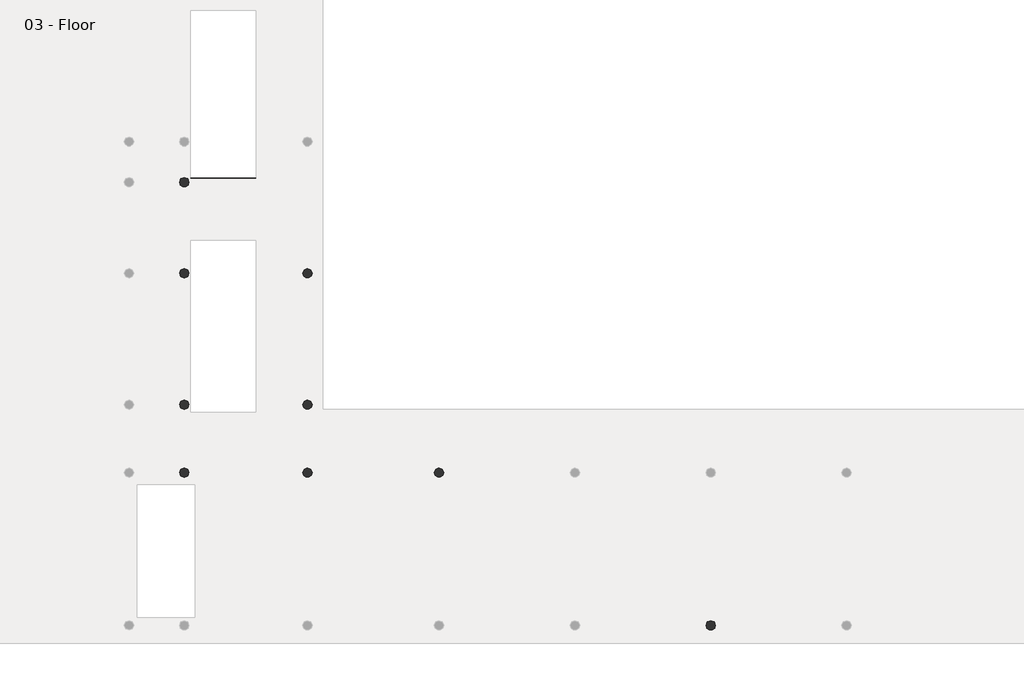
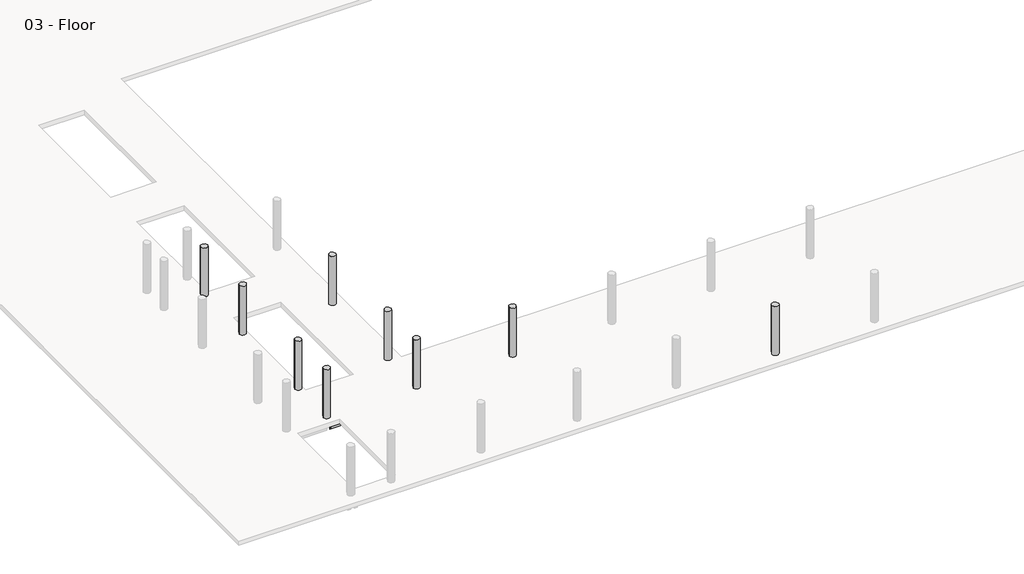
# One storey, part 3 of 8: 16 beams, 9 columns.
"""IFC4 building model written with IfcOpenShell, lengths in millimetres."""

from ifc_helpers import new_model, si_unit, point, frame, frame_2d, origin, place, context, project, spatial, polyline, circle_curve, trimmed, segment, composite_curve, outline, extrude, element, save
from ifc_brep_helpers import plane_surface, revolved_surface, advanced_brep

model = new_model("IFC4")

# Units and contexts
model_context = context("Model", 3, world=origin())
ifc_project = project(units=[si_unit("LENGTHUNIT", "METRE", prefix="MILLI")], contexts=[model_context])

# Site, building, storey
site = spatial("IfcSite", under=ifc_project)
building = spatial("IfcBuilding", under=site)
storey = spatial("IfcBuildingStorey", under=building, Name="03 - Floor", Elevation=7600.0)

# Beams
placement = place(None, origin())
element("IfcBeam", 1, ObjectType="M_Concrete-Rectangular Beam : 400 x 800mm", at=placement, inside=storey, context=model_context, shape_type="AdvancedBrep", body=[
    advanced_brep(
    [(554.8005584, -1310.2837394, 6800.0), (554.8005584, -1310.2837394, 7300.0), (554.8005584, -1213.3613801, 7300.0), (554.8005584, 329.7386199, 7300.0), (554.8005584, 329.7386199, 6800.0), (554.8005584, -1213.3613801, 6800.0), (954.8005584, 426.6609793, 6800.0), (954.8005584, -1213.3613801, 6800.0), (954.8005584, -1310.2837394, 6800.0), (651.7229178, 329.7386199, 6800.0), (954.8005584, 426.6609793, 7300.0), (954.8005584, -1213.3613801, 7300.0), (954.8005584, -1310.2837394, 7300.0), (651.7229178, 329.7386199, 7300.0)],
    [
        (0, 1),
        (1, 2),
        (2, 3),
        (3, 4),
        (4, 5),
        (5, 0),
        (6, 7),
        (7, 8),
        (8, 0, circle_curve(frame((754.8005584, -1413.3613801, 6800.0), z_axis=(0.0, 0.0, 1.0), x_axis=(-1.0, 0.0, 0.0)), 225.0)),
        (4, 9),
        (9, 6, circle_curve(frame((754.8005584, 529.7386199, 6800.0), z_axis=(0.0, 0.0, 1.0), x_axis=(-1.0, 0.0, 0.0)), 225.0)),
        (6, 10),
        (10, 11),
        (11, 12),
        (12, 8),
        (9, 13),
        (13, 10, circle_curve(frame((754.8005584, 529.7386199, 7300.0), z_axis=(0.0, 0.0, 1.0), x_axis=(-1.0, 0.0, 0.0)), 225.0)),
        (12, 1, circle_curve(frame((754.8005584, -1413.3613801, 7300.0), z_axis=(0.0, 0.0, 1.0), x_axis=(-1.0, 0.0, 0.0)), 225.0)),
        (13, 3),
    ],
    [
        plane_surface(frame((554.8005584, -1175.6613801, 7200.0), z_axis=(-1.0, 0.0, 0.0), x_axis=(0.0, 0.0, -1.0))),
        plane_surface(frame((754.8005584, -1175.6613801, 6800.0), z_axis=(0.0, 0.0, -1.0), x_axis=(1.0, 0.0, 0.0))),
        plane_surface(frame((954.8005584, -1175.6613801, 7200.0), z_axis=(1.0, 0.0, 0.0), x_axis=(0.0, 0.0, 1.0))),
        revolved_surface(polyline([(529.8005584, 529.7386199, 7300.0), (529.8005584, 529.7386199, 6800.0)]), (754.8005584, 529.7386199, 3800.0), (0.0, 0.0, 1.0)),
        revolved_surface(polyline([(529.8005584, -1413.3613801, 7300.0), (529.8005584, -1413.3613801, 6800.0)]), (754.8005584, -1413.3613801, 3800.0), (0.0, 0.0, 1.0)),
        plane_surface(frame((24268.8999097, 30514.0407562, 7300.0), z_axis=(0.0, 0.0, 1.0), x_axis=(0.0, -1.0, 0.0))),
        plane_surface(frame((-1649.0994416, 329.7386199, 7200.0), z_axis=(0.0, 1.0, 0.0), x_axis=(0.0, 0.0, 1.0))),
    ],
    [
        (0, [[1, 2, 3, 4, 5, 6]]),
        (1, [[7, 8, 9, -6, -5, 10, 11]]),
        (2, [[-8, -7, 12, 13, 14, 15]]),
        (3, [[-12, -11, 16, 17]]),
        (4, [[-9, -15, 18, -1]]),
        (5, [[-14, -13, -17, 19, -3, -2, -18]]),
        (6, [[-4, -19, -16, -10]]),
    ],
),
])
element("IfcBeam", 2, ObjectType="M_Concrete-Rectangular Beam : 400 x 800mm", at=placement, inside=storey, context=model_context, shape_type="AdvancedBrep", body=[
    advanced_brep(
    [(554.8005584, -1516.4390207, 6800.0), (554.8005584, -1613.3613801, 6800.0), (554.8005584, -5569.4613801, 6800.0), (554.8005584, -5666.3837394, 6800.0), (554.8005584, -5666.3837394, 7300.0), (554.8005584, -5569.4613801, 7300.0), (554.8005584, -1613.3613801, 7300.0), (554.8005584, -1516.4390207, 7300.0), (954.8005584, -5666.3837394, 6800.0), (857.878199, -1613.3613801, 6800.0), (954.8005584, -1613.3613801, 6800.0), (954.8005584, -1613.3613801, 7300.0), (954.8005584, -5666.3837394, 7300.0), (857.878199, -1613.3613801, 7300.0)],
    [
        (0, 1),
        (1, 2),
        (2, 3),
        (3, 4),
        (4, 5),
        (5, 6),
        (6, 7),
        (7, 0),
        (8, 3, circle_curve(frame((754.8005584, -5769.4613801, 6800.0), z_axis=(0.0, 0.0, 1.0), x_axis=(-1.0, 0.0, 0.0)), 225.0)),
        (0, 9, circle_curve(frame((754.8005584, -1413.3613801, 6800.0), z_axis=(0.0, 0.0, 1.0), x_axis=(-1.0, 0.0, 0.0)), 225.0)),
        (9, 10),
        (10, 8),
        (10, 11),
        (11, 12),
        (12, 8),
        (12, 4, circle_curve(frame((754.8005584, -5769.4613801, 7300.0), z_axis=(0.0, 0.0, 1.0), x_axis=(-1.0, 0.0, 0.0)), 225.0)),
        (7, 13, circle_curve(frame((754.8005584, -1413.3613801, 7300.0), z_axis=(0.0, 0.0, 1.0), x_axis=(-1.0, 0.0, 0.0)), 225.0)),
        (13, 9),
        (13, 11),
    ],
    [
        plane_surface(frame((554.8005584, -5531.7613801, 7200.0), z_axis=(-1.0, 0.0, 0.0), x_axis=(0.0, 0.0, -1.0))),
        plane_surface(frame((754.8005584, -5531.7613801, 6800.0), z_axis=(0.0, 0.0, -1.0), x_axis=(1.0, 0.0, 0.0))),
        plane_surface(frame((954.8005584, -5531.7613801, 7200.0), z_axis=(1.0, 0.0, 0.0), x_axis=(0.0, 0.0, 1.0))),
        revolved_surface(polyline([(529.8005584, -5769.4613801, 7300.0), (529.8005584, -5769.4613801, 6800.0)]), (754.8005584, -5769.4613801, 3800.0), (0.0, 0.0, 1.0)),
        revolved_surface(polyline([(529.8005584, -1413.3613801, 7300.0), (529.8005584, -1413.3613801, 6800.0)]), (754.8005584, -1413.3613801, 3800.0), (0.0, 0.0, 1.0)),
        plane_surface(frame((992.5005584, -1613.3613801, 7200.0), z_axis=(0.0, 1.0, 0.0), x_axis=(0.0, 0.0, 1.0))),
        plane_surface(frame((24268.8999097, 30514.0407562, 7300.0), z_axis=(0.0, 0.0, 1.0), x_axis=(0.0, -1.0, 0.0))),
    ],
    [
        (0, [[1, 2, 3, 4, 5, 6, 7, 8]]),
        (1, [[9, -3, -2, -1, 10, 11, 12]]),
        (2, [[-12, 13, 14, 15]]),
        (3, [[-9, -15, 16, -4]]),
        (4, [[-10, -8, 17, 18]]),
        (5, [[-11, -18, 19, -13]]),
        (6, [[-7, -6, -5, -16, -14, -19, -17]]),
    ],
),
])
element("IfcBeam", 3, ObjectType="M_Concrete-Rectangular Beam : 400 x 800mm", at=placement, inside=storey, context=model_context, shape_type="AdvancedBrep", body=[
    advanced_brep(
    [(554.8005584, -11965.5837394, 6800.0), (554.8005584, -11965.5837394, 7300.0), (554.8005584, -11868.6613801, 7300.0), (554.8005584, -5969.4613801, 7300.0), (554.8005584, -5969.4613801, 6800.0), (554.8005584, -11868.6613801, 6800.0), (954.8005584, -5872.5390207, 6800.0), (954.8005584, -11965.5837394, 6800.0), (651.7229178, -5969.4613801, 6800.0), (954.8005584, -5872.5390207, 7300.0), (954.8005584, -11965.5837394, 7300.0), (651.7229178, -5969.4613801, 7300.0)],
    [
        (0, 1),
        (1, 2),
        (2, 3),
        (3, 4),
        (4, 5),
        (5, 0),
        (6, 7),
        (7, 0, circle_curve(frame((754.8005584, -12068.6613801, 6800.0), z_axis=(0.0, 0.0, 1.0), x_axis=(-1.0, 0.0, 0.0)), 225.0)),
        (4, 8),
        (8, 6, circle_curve(frame((754.8005584, -5769.4613801, 6800.0), z_axis=(0.0, 0.0, 1.0), x_axis=(-1.0, 0.0, 0.0)), 225.0)),
        (6, 9),
        (9, 10),
        (10, 7),
        (8, 11),
        (11, 9, circle_curve(frame((754.8005584, -5769.4613801, 7300.0), z_axis=(0.0, 0.0, 1.0), x_axis=(-1.0, 0.0, 0.0)), 225.0)),
        (10, 1, circle_curve(frame((754.8005584, -12068.6613801, 7300.0), z_axis=(0.0, 0.0, 1.0), x_axis=(-1.0, 0.0, 0.0)), 225.0)),
        (11, 3),
    ],
    [
        plane_surface(frame((554.8005584, -11830.9613801, 7200.0), z_axis=(-1.0, 0.0, 0.0), x_axis=(0.0, 0.0, -1.0))),
        plane_surface(frame((754.8005584, -11830.9613801, 6800.0), z_axis=(0.0, 0.0, -1.0), x_axis=(1.0, 0.0, 0.0))),
        plane_surface(frame((954.8005584, -11830.9613801, 7200.0), z_axis=(1.0, 0.0, 0.0), x_axis=(0.0, 0.0, 1.0))),
        revolved_surface(polyline([(529.8005584, -5769.4613801, 7300.0), (529.8005584, -5769.4613801, 6800.0)]), (754.8005584, -5769.4613801, 3800.0), (0.0, 0.0, 1.0)),
        revolved_surface(polyline([(529.8005584, -12068.6613801, 7300.0), (529.8005584, -12068.6613801, 6800.0)]), (754.8005584, -12068.6613801, 3800.0), (0.0, 0.0, 1.0)),
        plane_surface(frame((24268.8999097, 30514.0407562, 7300.0), z_axis=(0.0, 0.0, 1.0), x_axis=(0.0, -1.0, 0.0))),
        plane_surface(frame((-1649.0994416, -5969.4613801, 7200.0), z_axis=(0.0, 1.0, 0.0), x_axis=(0.0, 0.0, 1.0))),
    ],
    [
        (0, [[1, 2, 3, 4, 5, 6]]),
        (1, [[7, 8, -6, -5, 9, 10]]),
        (2, [[-7, 11, 12, 13]]),
        (3, [[-11, -10, 14, 15]]),
        (4, [[-8, -13, 16, -1]]),
        (5, [[-12, -15, 17, -3, -2, -16]]),
        (6, [[-4, -17, -14, -9]]),
    ],
),
])
element("IfcBeam", 4, ObjectType="M_Concrete-Rectangular Beam : 400 x 800mm", at=placement, inside=storey, context=model_context, shape_type="AdvancedBrep", body=[
    advanced_brep(
    [(554.8005584, -15216.7837394, 6800.0), (554.8005584, -15216.7837394, 7300.0), (554.8005584, -15119.8613801, 7300.0), (554.8005584, -12268.6613801, 7300.0), (554.8005584, -12268.6613801, 6800.0), (554.8005584, -15119.8613801, 6800.0), (954.8005584, -12171.7390207, 6800.0), (954.8005584, -15119.8613801, 6800.0), (954.8005584, -15216.7837394, 6800.0), (651.7229178, -12268.6613801, 6800.0), (954.8005584, -12171.7390207, 7300.0), (954.8005584, -15119.8613801, 7300.0), (954.8005584, -15216.7837394, 7300.0), (651.7229178, -12268.6613801, 7300.0)],
    [
        (0, 1),
        (1, 2),
        (2, 3),
        (3, 4),
        (4, 5),
        (5, 0),
        (6, 7),
        (7, 8),
        (8, 0, circle_curve(frame((754.8005584, -15319.8613801, 6800.0), z_axis=(0.0, 0.0, 1.0), x_axis=(-1.0, 0.0, 0.0)), 225.0)),
        (4, 9),
        (9, 6, circle_curve(frame((754.8005584, -12068.6613801, 6800.0), z_axis=(0.0, 0.0, 1.0), x_axis=(-1.0, 0.0, 0.0)), 225.0)),
        (6, 10),
        (10, 11),
        (11, 12),
        (12, 8),
        (9, 13),
        (13, 10, circle_curve(frame((754.8005584, -12068.6613801, 7300.0), z_axis=(0.0, 0.0, 1.0), x_axis=(-1.0, 0.0, 0.0)), 225.0)),
        (12, 1, circle_curve(frame((754.8005584, -15319.8613801, 7300.0), z_axis=(0.0, 0.0, 1.0), x_axis=(-1.0, 0.0, 0.0)), 225.0)),
        (13, 3),
    ],
    [
        plane_surface(frame((554.8005584, -15082.1613801, 7200.0), z_axis=(-1.0, 0.0, 0.0), x_axis=(0.0, 0.0, -1.0))),
        plane_surface(frame((754.8005584, -15082.1613801, 6800.0), z_axis=(0.0, 0.0, -1.0), x_axis=(1.0, 0.0, 0.0))),
        plane_surface(frame((954.8005584, -15082.1613801, 7200.0), z_axis=(1.0, 0.0, 0.0), x_axis=(0.0, 0.0, 1.0))),
        revolved_surface(polyline([(529.8005584, -12068.6613801, 7300.0), (529.8005584, -12068.6613801, 6800.0)]), (754.8005584, -12068.6613801, 3800.0), (0.0, 0.0, 1.0)),
        revolved_surface(polyline([(529.8005584, -15319.8613801, 7300.0), (529.8005584, -15319.8613801, 6800.0)]), (754.8005584, -15319.8613801, 3800.0), (0.0, 0.0, 1.0)),
        plane_surface(frame((24268.8999097, 30514.0407562, 7300.0), z_axis=(0.0, 0.0, 1.0), x_axis=(0.0, -1.0, 0.0))),
        plane_surface(frame((-1649.0994416, -12268.6613801, 7200.0), z_axis=(0.0, 1.0, 0.0), x_axis=(0.0, 0.0, 1.0))),
    ],
    [
        (0, [[1, 2, 3, 4, 5, 6]]),
        (1, [[7, 8, 9, -6, -5, 10, 11]]),
        (2, [[-8, -7, 12, 13, 14, 15]]),
        (3, [[-12, -11, 16, 17]]),
        (4, [[-9, -15, 18, -1]]),
        (5, [[-14, -13, -17, 19, -3, -2, -18]]),
        (6, [[-4, -19, -16, -10]]),
    ],
),
])
element("IfcBeam", 5, ObjectType="M_Concrete-Rectangular Beam : 400 x 800mm", at=placement, inside=storey, context=model_context, shape_type="AdvancedBrep", body=[
    advanced_brep(
    [(6447.6005584, 426.6609793, 6800.0), (6447.6005584, -1213.3613801, 6800.0), (6447.6005584, -1613.3613801, 6800.0), (6447.6005584, -1613.3613801, 7300.0), (6447.6005584, -1213.3613801, 7300.0), (6447.6005584, 426.6609793, 7300.0), (6847.6005584, -1613.3613801, 6800.0), (6847.6005584, 426.6609793, 6800.0), (6847.6005584, 426.6609793, 7300.0), (6847.6005584, -1613.3613801, 7300.0)],
    [
        (0, 1),
        (1, 2),
        (2, 3),
        (3, 4),
        (4, 5),
        (5, 0),
        (6, 2),
        (0, 7, circle_curve(frame((6647.6005584, 529.7386199, 6800.0), z_axis=(0.0, 0.0, 1.0), x_axis=(-1.0, 0.0, 0.0)), 225.0)),
        (7, 6),
        (7, 8),
        (8, 9),
        (9, 6),
        (9, 3),
        (5, 8, circle_curve(frame((6647.6005584, 529.7386199, 7300.0), z_axis=(0.0, 0.0, 1.0), x_axis=(-1.0, 0.0, 0.0)), 225.0)),
    ],
    [
        plane_surface(frame((6447.6005584, -1200.6613801, 7600.0), z_axis=(-1.0, 0.0, 0.0), x_axis=(0.0, 1.0, 0.0))),
        plane_surface(frame((6447.6005584, -1200.6613801, 6800.0), z_axis=(0.0, 0.0, -1.0), x_axis=(0.0, 1.0, 0.0))),
        plane_surface(frame((6847.6005584, -1200.6613801, 6800.0), z_axis=(1.0, 0.0, 0.0), x_axis=(0.0, 1.0, 0.0))),
        plane_surface(frame((6871.5296419, -1613.3613801, 7600.0), z_axis=(0.0, -1.0, 0.0), x_axis=(-1.0, 0.0, 0.0))),
        revolved_surface(polyline([(6422.6005584, 529.7386199, 7300.0), (6422.6005584, 529.7386199, 6800.0)]), (6647.6005584, 529.7386199, 3800.0), (0.0, 0.0, 1.0)),
        plane_surface(frame((24268.8999097, 30514.0407562, 7300.0), z_axis=(0.0, 0.0, 1.0), x_axis=(0.0, -1.0, 0.0))),
    ],
    [
        (0, [[1, 2, 3, 4, 5, 6]]),
        (1, [[7, -2, -1, 8, 9]]),
        (2, [[-9, 10, 11, 12]]),
        (3, [[-7, -12, 13, -3]]),
        (4, [[-8, -6, 14, -10]]),
        (5, [[-5, -4, -13, -11, -14]]),
    ],
),
])
element("IfcBeam", 6, ObjectType="M_Concrete-Rectangular Beam : 400 x 800mm", at=placement, inside=storey, context=model_context, shape_type="SweptSolid", body=[
    extrude(outline(composite_curve([segment(trimmed(circle_curve(frame_2d((6647.6005584, -5769.4613801)), 225.0), [point((6847.6005584, -5666.3837394))], [point((6447.6005584, -5666.3837394))], True, "CARTESIAN"), True, "CONTINUOUS"), segment(polyline([(6447.6005584, -5666.3837394), (6447.6005584, -1613.3613801), (6847.6005584, -1613.3613801), (6847.6005584, -5666.3837394)]), True, "CONTINUOUS")], self_intersect=False)), frame((0.0, 0.0, 6800.0), z_axis=(0.0, 0.0, 1.0), x_axis=(1.0, 0.0, 0.0)), (0.0, 0.0, 1.0), 500.0),
])
element("IfcBeam", 7, ObjectType="M_Concrete-Rectangular Beam : 400 x 800mm", at=placement, inside=storey, context=model_context, shape_type="SweptSolid", body=[
    extrude(outline(composite_curve([segment(trimmed(circle_curve(frame_2d((6647.6005584, -5769.4613801)), 225.0), [point((6447.6005584, -5872.5390207))], [point((6847.6005584, -5872.5390207))], True, "CARTESIAN"), True, "CONTINUOUS"), segment(polyline([(6847.6005584, -5872.5390207), (6847.6005584, -11965.5837394)]), True, "CONTINUOUS"), segment(trimmed(circle_curve(frame_2d((6647.6005584, -12068.6613801)), 225.0), [point((6847.6005584, -11965.5837394))], [point((6447.6005584, -11965.5837394))], True, "CARTESIAN"), True, "CONTINUOUS"), segment(polyline([(6447.6005584, -11965.5837394), (6447.6005584, -5872.5390207)]), True, "CONTINUOUS")], self_intersect=False)), frame((0.0, 0.0, 6800.0), z_axis=(0.0, 0.0, 1.0), x_axis=(1.0, 0.0, 0.0)), (0.0, 0.0, 1.0), 500.0),
])
element("IfcBeam", 8, ObjectType="M_Concrete-Rectangular Beam : 400 x 800mm", at=placement, inside=storey, context=model_context, shape_type="AdvancedBrep", body=[
    advanced_brep(
    [(6447.6005584, -12171.7390207, 6800.0), (6447.6005584, -15119.8613801, 6800.0), (6447.6005584, -15216.7837394, 6800.0), (6447.6005584, -15216.7837394, 7300.0), (6447.6005584, -15119.8613801, 7300.0), (6447.6005584, -12171.7390207, 7300.0), (6847.6005584, -12171.7390207, 6800.0), (6847.6005584, -15119.8613801, 6800.0), (6847.6005584, -15216.7837394, 6800.0), (6847.6005584, -12171.7390207, 7300.0), (6847.6005584, -15119.8613801, 7300.0), (6847.6005584, -15216.7837394, 7300.0)],
    [
        (0, 1),
        (1, 2),
        (2, 3),
        (3, 4),
        (4, 5),
        (5, 0),
        (0, 6, circle_curve(frame((6647.6005584, -12068.6613801, 6800.0), z_axis=(0.0, 0.0, 1.0), x_axis=(-1.0, 0.0, 0.0)), 225.0)),
        (6, 7),
        (7, 8),
        (8, 2, circle_curve(frame((6647.6005584, -15319.8613801, 6800.0), z_axis=(0.0, 0.0, 1.0), x_axis=(-1.0, 0.0, 0.0)), 225.0)),
        (6, 9),
        (9, 10),
        (10, 11),
        (11, 8),
        (5, 9, circle_curve(frame((6647.6005584, -12068.6613801, 7300.0), z_axis=(0.0, 0.0, 1.0), x_axis=(-1.0, 0.0, 0.0)), 225.0)),
        (11, 3, circle_curve(frame((6647.6005584, -15319.8613801, 7300.0), z_axis=(0.0, 0.0, 1.0), x_axis=(-1.0, 0.0, 0.0)), 225.0)),
    ],
    [
        plane_surface(frame((6447.6005584, -15082.1613801, 7200.0), z_axis=(-1.0, 0.0, 0.0), x_axis=(0.0, 0.0, -1.0))),
        plane_surface(frame((6647.6005584, -15082.1613801, 6800.0), z_axis=(0.0, 0.0, -1.0), x_axis=(1.0, 0.0, 0.0))),
        plane_surface(frame((6847.6005584, -15082.1613801, 7200.0), z_axis=(1.0, 0.0, 0.0), x_axis=(0.0, 0.0, 1.0))),
        revolved_surface(polyline([(6422.6005584, -12068.6613801, 7300.0), (6422.6005584, -12068.6613801, 6800.0)]), (6647.6005584, -12068.6613801, 3800.0), (0.0, 0.0, 1.0)),
        revolved_surface(polyline([(6422.6005584, -15319.8613801, 7300.0), (6422.6005584, -15319.8613801, 6800.0)]), (6647.6005584, -15319.8613801, 3800.0), (0.0, 0.0, 1.0)),
        plane_surface(frame((24268.8999097, 30514.0407562, 7300.0), z_axis=(0.0, 0.0, 1.0), x_axis=(0.0, -1.0, 0.0))),
    ],
    [
        (0, [[1, 2, 3, 4, 5, 6]]),
        (1, [[7, 8, 9, 10, -2, -1]]),
        (2, [[-9, -8, 11, 12, 13, 14]]),
        (3, [[-7, -6, 15, -11]]),
        (4, [[-10, -14, 16, -3]]),
        (5, [[-5, -4, -16, -13, -12, -15]]),
    ],
),
])
element("IfcBeam", 9, ObjectType="M_Concrete-Rectangular Beam : 400 x 800mm", at=placement, inside=storey, context=model_context, shape_type="AdvancedBrep", body=[
    advanced_brep(
    [(19249.2005584, -15422.9390207, 6800.0), (19249.2005584, -15519.8613801, 6800.0), (19249.2005584, -22435.0613801, 6800.0), (19249.2005584, -22531.9837394, 6800.0), (19249.2005584, -22531.9837394, 7300.0), (19249.2005584, -22435.0613801, 7300.0), (19249.2005584, -15519.8613801, 7300.0), (19249.2005584, -15422.9390207, 7300.0), (19649.2005584, -15422.9390207, 6800.0), (19649.2005584, -15519.8613801, 6800.0), (19649.2005584, -22435.0613801, 6800.0), (19649.2005584, -22531.9837394, 6800.0), (19649.2005584, -15422.9390207, 7300.0), (19649.2005584, -15519.8613801, 7300.0), (19649.2005584, -22435.0613801, 7300.0), (19649.2005584, -22531.9837394, 7300.0)],
    [
        (0, 1),
        (1, 2),
        (2, 3),
        (3, 4),
        (4, 5),
        (5, 6),
        (6, 7),
        (7, 0),
        (0, 8, circle_curve(frame((19449.2005584, -15319.8613801, 6800.0), z_axis=(0.0, 0.0, 1.0), x_axis=(-1.0, 0.0, 0.0)), 225.0)),
        (8, 9),
        (9, 10),
        (10, 11),
        (11, 3, circle_curve(frame((19449.2005584, -22635.0613801, 6800.0), z_axis=(0.0, 0.0, 1.0), x_axis=(-1.0, 0.0, 0.0)), 225.0)),
        (8, 12),
        (12, 13),
        (13, 14),
        (14, 15),
        (15, 11),
        (7, 12, circle_curve(frame((19449.2005584, -15319.8613801, 7300.0), z_axis=(0.0, 0.0, 1.0), x_axis=(-1.0, 0.0, 0.0)), 225.0)),
        (15, 4, circle_curve(frame((19449.2005584, -22635.0613801, 7300.0), z_axis=(0.0, 0.0, 1.0), x_axis=(-1.0, 0.0, 0.0)), 225.0)),
    ],
    [
        plane_surface(frame((19249.2005584, -22397.3613801, 7600.0), z_axis=(-1.0, 0.0, 0.0), x_axis=(0.0, 1.0, 0.0))),
        plane_surface(frame((19249.2005584, -22397.3613801, 6800.0), z_axis=(0.0, 0.0, -1.0), x_axis=(0.0, 1.0, 0.0))),
        plane_surface(frame((19649.2005584, -22397.3613801, 6800.0), z_axis=(1.0, 0.0, 0.0), x_axis=(0.0, 1.0, 0.0))),
        revolved_surface(polyline([(19224.2005584, -15319.8613801, 7300.0), (19224.2005584, -15319.8613801, 6800.0)]), (19449.2005584, -15319.8613801, 3800.0), (0.0, 0.0, 1.0)),
        revolved_surface(polyline([(19224.2005584, -22635.0613801, 7300.0), (19224.2005584, -22635.0613801, 6800.0)]), (19449.2005584, -22635.0613801, 3800.0), (0.0, 0.0, 1.0)),
        plane_surface(frame((24268.8999097, 30514.0407562, 7300.0), z_axis=(0.0, 0.0, 1.0), x_axis=(0.0, -1.0, 0.0))),
    ],
    [
        (0, [[1, 2, 3, 4, 5, 6, 7, 8]]),
        (1, [[9, 10, 11, 12, 13, -3, -2, -1]]),
        (2, [[-12, -11, -10, 14, 15, 16, 17, 18]]),
        (3, [[-9, -8, 19, -14]]),
        (4, [[-13, -18, 20, -4]]),
        (5, [[-7, -6, -5, -20, -17, -16, -15, -19]]),
    ],
),
])
element("IfcBeam", 10, ObjectType="M_Concrete-Rectangular Beam : 400 x 800mm", at=placement, inside=storey, context=model_context, shape_type="AdvancedBrep", body=[
    advanced_brep(
    [(25751.6005584, -15422.9390207, 6800.0), (25751.6005584, -15519.8613801, 6800.0), (25751.6005584, -22435.0613801, 6800.0), (25751.6005584, -22531.9837394, 6800.0), (25751.6005584, -22531.9837394, 7300.0), (25751.6005584, -22435.0613801, 7300.0), (25751.6005584, -15519.8613801, 7300.0), (25751.6005584, -15422.9390207, 7300.0), (26151.6005584, -15422.9390207, 6800.0), (26151.6005584, -15519.8613801, 6800.0), (26151.6005584, -22435.0613801, 6800.0), (26151.6005584, -22531.9837394, 6800.0), (26151.6005584, -15422.9390207, 7300.0), (26151.6005584, -15519.8613801, 7300.0), (26151.6005584, -22435.0613801, 7300.0), (26151.6005584, -22531.9837394, 7300.0)],
    [
        (0, 1),
        (1, 2),
        (2, 3),
        (3, 4),
        (4, 5),
        (5, 6),
        (6, 7),
        (7, 0),
        (0, 8, circle_curve(frame((25951.6005584, -15319.8613801, 6800.0), z_axis=(0.0, 0.0, 1.0), x_axis=(-1.0, 0.0, 0.0)), 225.0)),
        (8, 9),
        (9, 10),
        (10, 11),
        (11, 3, circle_curve(frame((25951.6005584, -22635.0613801, 6800.0), z_axis=(0.0, 0.0, 1.0), x_axis=(-1.0, 0.0, 0.0)), 225.0)),
        (8, 12),
        (12, 13),
        (13, 14),
        (14, 15),
        (15, 11),
        (7, 12, circle_curve(frame((25951.6005584, -15319.8613801, 7300.0), z_axis=(0.0, 0.0, 1.0), x_axis=(-1.0, 0.0, 0.0)), 225.0)),
        (15, 4, circle_curve(frame((25951.6005584, -22635.0613801, 7300.0), z_axis=(0.0, 0.0, 1.0), x_axis=(-1.0, 0.0, 0.0)), 225.0)),
    ],
    [
        plane_surface(frame((25751.6005584, -22397.3613801, 7600.0), z_axis=(-1.0, 0.0, 0.0), x_axis=(0.0, 1.0, 0.0))),
        plane_surface(frame((25751.6005584, -22397.3613801, 6800.0), z_axis=(0.0, 0.0, -1.0), x_axis=(0.0, 1.0, 0.0))),
        plane_surface(frame((26151.6005584, -22397.3613801, 6800.0), z_axis=(1.0, 0.0, 0.0), x_axis=(0.0, 1.0, 0.0))),
        revolved_surface(polyline([(25726.6005584, -15319.8613801, 7300.0), (25726.6005584, -15319.8613801, 6800.0)]), (25951.6005584, -15319.8613801, 3800.0), (0.0, 0.0, 1.0)),
        revolved_surface(polyline([(25726.6005584, -22635.0613801, 7300.0), (25726.6005584, -22635.0613801, 6800.0)]), (25951.6005584, -22635.0613801, 3800.0), (0.0, 0.0, 1.0)),
        plane_surface(frame((24268.8999097, 30514.0407562, 7300.0), z_axis=(0.0, 0.0, 1.0), x_axis=(0.0, -1.0, 0.0))),
    ],
    [
        (0, [[1, 2, 3, 4, 5, 6, 7, 8]]),
        (1, [[9, 10, 11, 12, 13, -3, -2, -1]]),
        (2, [[-12, -11, -10, 14, 15, 16, 17, 18]]),
        (3, [[-9, -8, 19, -14]]),
        (4, [[-13, -18, 20, -4]]),
        (5, [[-7, -6, -5, -20, -17, -16, -15, -19]]),
    ],
),
])
element("IfcBeam", 11, ObjectType="M_Concrete-Rectangular Beam : 400 x 800mm", at=placement, inside=storey, context=model_context, shape_type="AdvancedBrep", body=[
    advanced_brep(
    [(12843.7229178, -15119.8613801, 6800.0), (12746.8005584, -15119.8613801, 6800.0), (6847.6005584, -15119.8613801, 6800.0), (6847.6005584, -15119.8613801, 7300.0), (12746.8005584, -15119.8613801, 7300.0), (12843.7229178, -15119.8613801, 7300.0), (6847.6005584, -15216.7837394, 6800.0), (12721.8005584, -15319.8613801, 6800.0), (12746.8005584, -15422.9390207, 6800.0), (12746.8005584, -15519.8613801, 6800.0), (6847.6005584, -15519.8613801, 6800.0), (6750.678199, -15519.8613801, 6800.0), (6872.6005584, -15319.8613801, 6800.0), (12746.8005584, -15519.8613801, 7300.0), (6847.6005584, -15519.8613801, 7300.0), (6750.678199, -15519.8613801, 7300.0), (6847.6005584, -15216.7837394, 7300.0), (6872.6005584, -15319.8613801, 7300.0), (12746.8005584, -15422.9390207, 7300.0), (12721.8005584, -15319.8613801, 7300.0)],
    [
        (0, 1),
        (1, 2),
        (2, 3),
        (3, 4),
        (4, 5),
        (5, 0),
        (6, 2),
        (0, 7, circle_curve(frame((12946.8005584, -15319.8613801, 6800.0), z_axis=(0.0, 0.0, 1.0), x_axis=(-1.0, 0.0, 0.0)), 225.0)),
        (7, 8, circle_curve(frame((12946.8005584, -15319.8613801, 6800.0), z_axis=(0.0, 0.0, 1.0), x_axis=(-1.0, 0.0, 0.0)), 225.0)),
        (8, 9),
        (9, 10),
        (10, 11),
        (11, 12, circle_curve(frame((6647.6005584, -15319.8613801, 6800.0), z_axis=(0.0, 0.0, 1.0), x_axis=(-1.0, 0.0, 0.0)), 225.0)),
        (12, 6, circle_curve(frame((6647.6005584, -15319.8613801, 6800.0), z_axis=(0.0, 0.0, 1.0), x_axis=(-1.0, 0.0, 0.0)), 225.0)),
        (9, 13),
        (13, 14),
        (14, 15),
        (15, 11),
        (6, 16),
        (16, 3),
        (15, 17, circle_curve(frame((6647.6005584, -15319.8613801, 7300.0), z_axis=(0.0, 0.0, 1.0), x_axis=(-1.0, 0.0, 0.0)), 225.0)),
        (17, 12),
        (17, 16, circle_curve(frame((6647.6005584, -15319.8613801, 7300.0), z_axis=(0.0, 0.0, 1.0), x_axis=(-1.0, 0.0, 0.0)), 225.0)),
        (8, 18),
        (18, 13),
        (7, 19),
        (19, 18, circle_curve(frame((12946.8005584, -15319.8613801, 7300.0), z_axis=(0.0, 0.0, 1.0), x_axis=(-1.0, 0.0, 0.0)), 225.0)),
        (5, 19, circle_curve(frame((12946.8005584, -15319.8613801, 7300.0), z_axis=(0.0, 0.0, 1.0), x_axis=(-1.0, 0.0, 0.0)), 225.0)),
    ],
    [
        plane_surface(frame((6885.3005584, -15119.8613801, 7200.0), z_axis=(0.0, 1.0, 0.0), x_axis=(0.0, 0.0, -1.0))),
        plane_surface(frame((6885.3005584, -15319.8613801, 6800.0), z_axis=(0.0, 0.0, -1.0), x_axis=(0.0, -1.0, 0.0))),
        plane_surface(frame((6885.3005584, -15519.8613801, 7200.0), z_axis=(0.0, -1.0, 0.0), x_axis=(0.0, 0.0, 1.0))),
        plane_surface(frame((6847.6005584, -15082.1613801, 7200.0), z_axis=(-1.0, 0.0, 0.0), x_axis=(0.0, 0.0, 1.0))),
        revolved_surface(polyline([(6422.6005584, -15319.8613801, 7300.0), (6422.6005584, -15319.8613801, 6800.0)]), (6647.6005584, -15319.8613801, 3800.0), (0.0, 0.0, 1.0)),
        plane_surface(frame((12746.8005584, -22397.3613801, 7600.0), z_axis=(1.0, 0.0, 0.0), x_axis=(0.0, 1.0, 0.0))),
        revolved_surface(polyline([(12721.8005584, -15319.8613801, 7300.0), (12721.8005584, -15319.8613801, 6800.0)]), (12946.8005584, -15319.8613801, 3800.0), (0.0, 0.0, 1.0)),
        plane_surface(frame((24268.8999097, 30514.0407562, 7300.0), z_axis=(0.0, 0.0, 1.0), x_axis=(0.0, -1.0, 0.0))),
    ],
    [
        (0, [[1, 2, 3, 4, 5, 6]]),
        (1, [[7, -2, -1, 8, 9, 10, 11, 12, 13, 14]]),
        (2, [[-12, -11, 15, 16, 17, 18]]),
        (3, [[-7, 19, 20, -3]]),
        (4, [[-13, -18, 21, 22]]),
        (4, [[-14, -22, 23, -19]]),
        (5, [[-10, 24, 25, -15]]),
        (6, [[-9, 26, 27, -24]]),
        (6, [[-8, -6, 28, -26]]),
        (7, [[-5, -4, -20, -23, -21, -17, -16, -25, -27, -28]]),
    ],
),
])
element("IfcBeam", 12, ObjectType="M_Concrete-Rectangular Beam : 400 x 800mm", at=placement, inside=storey, context=model_context, shape_type="SweptSolid", body=[
    extrude(outline(composite_curve([segment(polyline([(954.8005584, -15216.7837394), (954.8005584, -15119.8613801), (6447.6005584, -15119.8613801), (6447.6005584, -15216.7837394)]), True, "CONTINUOUS"), segment(trimmed(circle_curve(frame_2d((6647.6005584, -15319.8613801)), 225.0), [point((6447.6005584, -15216.7837394))], [point((6422.6005584, -15319.8613801))], True, "CARTESIAN"), True, "CONTINUOUS"), segment(trimmed(circle_curve(frame_2d((6647.6005584, -15319.8613801)), 225.0), [point((6422.6005584, -15319.8613801))], [point((6447.6005584, -15422.9390207))], True, "CARTESIAN"), True, "CONTINUOUS"), segment(polyline([(6447.6005584, -15422.9390207), (6447.6005584, -15519.8613801), (857.878199, -15519.8613801)]), True, "CONTINUOUS"), segment(trimmed(circle_curve(frame_2d((754.8005584, -15319.8613801)), 225.0), [point((857.878199, -15519.8613801))], [point((979.8005584, -15319.8613801))], True, "CARTESIAN"), True, "CONTINUOUS"), segment(trimmed(circle_curve(frame_2d((754.8005584, -15319.8613801)), 225.0), [point((979.8005584, -15319.8613801))], [point((954.8005584, -15216.7837394))], True, "CARTESIAN"), True, "CONTINUOUS")], self_intersect=False)), frame((0.0, 0.0, 6800.0), z_axis=(0.0, 0.0, 1.0), x_axis=(1.0, 0.0, 0.0)), (0.0, 0.0, 1.0), 500.0),
])
element("IfcBeam", 13, ObjectType="M_Concrete-Rectangular Beam : 400 x 800mm", at=placement, inside=storey, context=model_context, shape_type="SweptSolid", body=[
    extrude(outline(composite_curve([segment(polyline([(26151.6005584, -22531.9837394), (26151.6005584, -22435.0613801), (32254.0005584, -22435.0613801), (32254.0005584, -22531.9837394)]), True, "CONTINUOUS"), segment(trimmed(circle_curve(frame_2d((32454.0005584, -22635.0613801)), 225.0), [point((32254.0005584, -22531.9837394))], [point((32229.0005584, -22635.0613801))], True, "CARTESIAN"), True, "CONTINUOUS"), segment(trimmed(circle_curve(frame_2d((32454.0005584, -22635.0613801)), 225.0), [point((32229.0005584, -22635.0613801))], [point((32350.9229178, -22835.0613801))], True, "CARTESIAN"), True, "CONTINUOUS"), segment(polyline([(32350.9229178, -22835.0613801), (26054.678199, -22835.0613801)]), True, "CONTINUOUS"), segment(trimmed(circle_curve(frame_2d((25951.6005584, -22635.0613801)), 225.0), [point((26054.678199, -22835.0613801))], [point((26176.6005584, -22635.0613801))], True, "CARTESIAN"), True, "CONTINUOUS"), segment(trimmed(circle_curve(frame_2d((25951.6005584, -22635.0613801)), 225.0), [point((26176.6005584, -22635.0613801))], [point((26151.6005584, -22531.9837394))], True, "CARTESIAN"), True, "CONTINUOUS")], self_intersect=False)), frame((0.0, 0.0, 6800.0), z_axis=(0.0, 0.0, 1.0), x_axis=(1.0, 0.0, 0.0)), (0.0, 0.0, 1.0), 500.0),
])
element("IfcBeam", 14, ObjectType="M_Concrete-Rectangular Beam : 400 x 800mm", at=placement, inside=storey, context=model_context, shape_type="SweptSolid", body=[
    extrude(outline(composite_curve([segment(polyline([(19649.2005584, -22531.9837394), (19649.2005584, -22435.0613801), (25751.6005584, -22435.0613801), (25751.6005584, -22531.9837394)]), True, "CONTINUOUS"), segment(trimmed(circle_curve(frame_2d((25951.6005584, -22635.0613801)), 225.0), [point((25751.6005584, -22531.9837394))], [point((25726.6005584, -22635.0613801))], True, "CARTESIAN"), True, "CONTINUOUS"), segment(trimmed(circle_curve(frame_2d((25951.6005584, -22635.0613801)), 225.0), [point((25726.6005584, -22635.0613801))], [point((25848.5229178, -22835.0613801))], True, "CARTESIAN"), True, "CONTINUOUS"), segment(polyline([(25848.5229178, -22835.0613801), (19552.278199, -22835.0613801)]), True, "CONTINUOUS"), segment(trimmed(circle_curve(frame_2d((19449.2005584, -22635.0613801)), 225.0), [point((19552.278199, -22835.0613801))], [point((19674.2005584, -22635.0613801))], True, "CARTESIAN"), True, "CONTINUOUS"), segment(trimmed(circle_curve(frame_2d((19449.2005584, -22635.0613801)), 225.0), [point((19674.2005584, -22635.0613801))], [point((19649.2005584, -22531.9837394))], True, "CARTESIAN"), True, "CONTINUOUS")], self_intersect=False)), frame((0.0, 0.0, 6800.0), z_axis=(0.0, 0.0, 1.0), x_axis=(1.0, 0.0, 0.0)), (0.0, 0.0, 1.0), 500.0),
])
element("IfcBeam", 15, ObjectType="M_Concrete-Rectangular Beam : 400 x 800mm", at=placement, inside=storey, context=model_context, shape_type="AdvancedBrep", body=[
    advanced_brep(
    [(6447.6005584, -1213.3613801, 6800.0), (954.8005584, -1213.3613801, 6800.0), (954.8005584, -1213.3613801, 7300.0), (1065.5703938, -1213.3613801, 7300.0), (4175.4703938, -1213.3613801, 7300.0), (6447.6005584, -1213.3613801, 7300.0), (857.878199, -1613.3613801, 6800.0), (979.8005584, -1413.3613801, 6800.0), (954.8005584, -1310.2837394, 6800.0), (6447.6005584, -1613.3613801, 6800.0), (954.8005584, -1613.3613801, 6800.0), (6447.6005584, -1613.3613801, 7300.0), (954.8005584, -1613.3613801, 7300.0), (857.878199, -1613.3613801, 7300.0), (979.8005584, -1413.3613801, 7300.0), (954.8005584, -1310.2837394, 7300.0)],
    [
        (0, 1),
        (1, 2),
        (2, 3),
        (3, 4),
        (4, 5),
        (5, 0),
        (6, 7, circle_curve(frame((754.8005584, -1413.3613801, 6800.0), z_axis=(0.0, 0.0, 1.0), x_axis=(-1.0, 0.0, 0.0)), 225.0)),
        (7, 8, circle_curve(frame((754.8005584, -1413.3613801, 6800.0), z_axis=(0.0, 0.0, 1.0), x_axis=(-1.0, 0.0, 0.0)), 225.0)),
        (8, 1),
        (0, 9),
        (9, 10),
        (10, 6),
        (9, 11),
        (11, 12),
        (12, 13),
        (13, 6),
        (13, 14, circle_curve(frame((754.8005584, -1413.3613801, 7300.0), z_axis=(0.0, 0.0, 1.0), x_axis=(-1.0, 0.0, 0.0)), 225.0)),
        (14, 7),
        (14, 15, circle_curve(frame((754.8005584, -1413.3613801, 7300.0), z_axis=(0.0, 0.0, 1.0), x_axis=(-1.0, 0.0, 0.0)), 225.0)),
        (15, 8),
        (15, 2),
        (5, 11),
    ],
    [
        plane_surface(frame((992.5005584, -1213.3613801, 7200.0), z_axis=(0.0, 1.0, 0.0), x_axis=(0.0, 0.0, -1.0))),
        plane_surface(frame((992.5005584, -1413.3613801, 6800.0), z_axis=(0.0, 0.0, -1.0), x_axis=(0.0, -1.0, 0.0))),
        plane_surface(frame((992.5005584, -1613.3613801, 7200.0), z_axis=(0.0, -1.0, 0.0), x_axis=(0.0, 0.0, 1.0))),
        revolved_surface(polyline([(529.8005584, -1413.3613801, 7300.0), (529.8005584, -1413.3613801, 6800.0)]), (754.8005584, -1413.3613801, 3800.0), (0.0, 0.0, 1.0)),
        plane_surface(frame((954.8005584, -1175.6613801, 7200.0), z_axis=(-1.0, 0.0, 0.0), x_axis=(0.0, 0.0, 1.0))),
        plane_surface(frame((6447.6005584, -1200.6613801, 7600.0), z_axis=(1.0, 0.0, 0.0), x_axis=(0.0, 1.0, 0.0))),
        plane_surface(frame((24268.8999097, 30514.0407562, 7300.0), z_axis=(0.0, 0.0, 1.0), x_axis=(0.0, -1.0, 0.0))),
    ],
    [
        (0, [[1, 2, 3, 4, 5, 6]]),
        (1, [[7, 8, 9, -1, 10, 11, 12]]),
        (2, [[-12, -11, 13, 14, 15, 16]]),
        (3, [[-7, -16, 17, 18]]),
        (3, [[-8, -18, 19, 20]]),
        (4, [[-9, -20, 21, -2]]),
        (5, [[-10, -6, 22, -13]]),
        (6, [[-3, -21, -19, -17, -15, -14, -22, -5, -4]]),
    ],
),
])
element("IfcBeam", 16, ObjectType="M_Concrete-Rectangular Beam : 400 x 800mm", at=placement, inside=storey, context=model_context, shape_type="SweptSolid", body=[
    extrude(outline(composite_curve([segment(polyline([(12746.8005584, -12296.3611817), (13146.8005584, -12296.3611817), (13146.8005584, -15119.8613801), (13049.878199, -15119.8613801)]), True, "CONTINUOUS"), segment(trimmed(circle_curve(frame_2d((12946.8005584, -15319.8613801)), 225.0), [point((13049.878199, -15119.8613801))], [point((12843.7229178, -15119.8613801))], True, "CARTESIAN"), True, "CONTINUOUS"), segment(polyline([(12843.7229178, -15119.8613801), (12746.8005584, -15119.8613801), (12746.8005584, -12296.3611817)]), True, "CONTINUOUS")], self_intersect=False)), frame((0.0, 0.0, 6800.0), z_axis=(0.0, 0.0, 1.0), x_axis=(1.0, 0.0, 0.0)), (0.0, 0.0, 1.0), 500.0),
])

# Columns
element("IfcColumn", 17, ObjectType="M_Concrete-Round-Column : 450mm", at=placement, inside=storey, context=model_context, shape_type="SweptSolid", body=[
    extrude(outline(composite_curve([segment(trimmed(circle_curve(frame_2d((754.8005584, -5769.4613801)), 225.0), [point((979.8005584, -5769.4613801))], [point((529.8005584, -5769.4613801))], False, "CARTESIAN"), True, "CONTINUOUS"), segment(trimmed(circle_curve(frame_2d((754.8005584, -5769.4613801)), 225.0), [point((529.8005584, -5769.4613801))], [point((979.8005584, -5769.4613801))], False, "CARTESIAN"), True, "CONTINUOUS")], self_intersect=False)), frame((0.0, 0.0, 7600.0), z_axis=(0.0, 0.0, 1.0), x_axis=(1.0, 0.0, 0.0)), (0.0, 0.0, 1.0), 3400.0),
])
element("IfcColumn", 18, ObjectType="M_Concrete-Round-Column : 450mm", at=placement, inside=storey, context=model_context, shape_type="SweptSolid", body=[
    extrude(outline(composite_curve([segment(trimmed(circle_curve(frame_2d((754.8005584, -12068.6613801)), 225.0), [point((979.8005584, -12068.6613801))], [point((529.8005584, -12068.6613801))], False, "CARTESIAN"), True, "CONTINUOUS"), segment(trimmed(circle_curve(frame_2d((754.8005584, -12068.6613801)), 225.0), [point((529.8005584, -12068.6613801))], [point((979.8005584, -12068.6613801))], False, "CARTESIAN"), True, "CONTINUOUS")], self_intersect=False)), frame((0.0, 0.0, 7600.0), z_axis=(0.0, 0.0, 1.0), x_axis=(1.0, 0.0, 0.0)), (0.0, 0.0, 1.0), 3400.0),
])
element("IfcColumn", 19, ObjectType="M_Concrete-Round-Column : 450mm", at=placement, inside=storey, context=model_context, shape_type="SweptSolid", body=[
    extrude(outline(composite_curve([segment(trimmed(circle_curve(frame_2d((754.8005584, -15319.8613801)), 225.0), [point((979.8005584, -15319.8613801))], [point((529.8005584, -15319.8613801))], False, "CARTESIAN"), True, "CONTINUOUS"), segment(trimmed(circle_curve(frame_2d((754.8005584, -15319.8613801)), 225.0), [point((529.8005584, -15319.8613801))], [point((979.8005584, -15319.8613801))], False, "CARTESIAN"), True, "CONTINUOUS")], self_intersect=False)), frame((0.0, 0.0, 7600.0), z_axis=(0.0, 0.0, 1.0), x_axis=(1.0, 0.0, 0.0)), (0.0, 0.0, 1.0), 3400.0),
])
element("IfcColumn", 20, ObjectType="M_Concrete-Round-Column : 450mm", at=placement, inside=storey, context=model_context, shape_type="SweptSolid", body=[
    extrude(outline(composite_curve([segment(trimmed(circle_curve(frame_2d((754.8005584, -1413.3613801)), 225.0), [point((979.8005584, -1413.3613801))], [point((529.8005584, -1413.3613801))], False, "CARTESIAN"), True, "CONTINUOUS"), segment(trimmed(circle_curve(frame_2d((754.8005584, -1413.3613801)), 225.0), [point((529.8005584, -1413.3613801))], [point((979.8005584, -1413.3613801))], False, "CARTESIAN"), True, "CONTINUOUS")], self_intersect=False)), frame((0.0, 0.0, 7600.0), z_axis=(0.0, 0.0, 1.0), x_axis=(1.0, 0.0, 0.0)), (0.0, 0.0, 1.0), 3400.0),
])
element("IfcColumn", 21, ObjectType="M_Concrete-Round-Column : 450mm", at=placement, inside=storey, context=model_context, shape_type="SweptSolid", body=[
    extrude(outline(composite_curve([segment(trimmed(circle_curve(frame_2d((6647.6005584, -5769.4613801)), 225.0), [point((6872.6005584, -5769.4613801))], [point((6422.6005584, -5769.4613801))], False, "CARTESIAN"), True, "CONTINUOUS"), segment(trimmed(circle_curve(frame_2d((6647.6005584, -5769.4613801)), 225.0), [point((6422.6005584, -5769.4613801))], [point((6872.6005584, -5769.4613801))], False, "CARTESIAN"), True, "CONTINUOUS")], self_intersect=False)), frame((0.0, 0.0, 7600.0), z_axis=(0.0, 0.0, 1.0), x_axis=(1.0, 0.0, 0.0)), (0.0, 0.0, 1.0), 3400.0),
])
element("IfcColumn", 22, ObjectType="M_Concrete-Round-Column : 450mm", at=placement, inside=storey, context=model_context, shape_type="SweptSolid", body=[
    extrude(outline(composite_curve([segment(trimmed(circle_curve(frame_2d((6647.6005584, -12068.6613801)), 225.0), [point((6872.6005584, -12068.6613801))], [point((6422.6005584, -12068.6613801))], False, "CARTESIAN"), True, "CONTINUOUS"), segment(trimmed(circle_curve(frame_2d((6647.6005584, -12068.6613801)), 225.0), [point((6422.6005584, -12068.6613801))], [point((6872.6005584, -12068.6613801))], False, "CARTESIAN"), True, "CONTINUOUS")], self_intersect=False)), frame((0.0, 0.0, 7600.0), z_axis=(0.0, 0.0, 1.0), x_axis=(1.0, 0.0, 0.0)), (0.0, 0.0, 1.0), 3400.0),
])
element("IfcColumn", 23, ObjectType="M_Concrete-Round-Column : 450mm", at=placement, inside=storey, context=model_context, shape_type="SweptSolid", body=[
    extrude(outline(composite_curve([segment(trimmed(circle_curve(frame_2d((6647.6005584, -15319.8613801)), 225.0), [point((6872.6005584, -15319.8613801))], [point((6422.6005584, -15319.8613801))], False, "CARTESIAN"), True, "CONTINUOUS"), segment(trimmed(circle_curve(frame_2d((6647.6005584, -15319.8613801)), 225.0), [point((6422.6005584, -15319.8613801))], [point((6872.6005584, -15319.8613801))], False, "CARTESIAN"), True, "CONTINUOUS")], self_intersect=False)), frame((0.0, 0.0, 7600.0), z_axis=(0.0, 0.0, 1.0), x_axis=(1.0, 0.0, 0.0)), (0.0, 0.0, 1.0), 3400.0),
])
element("IfcColumn", 24, ObjectType="M_Concrete-Round-Column : 450mm", at=placement, inside=storey, context=model_context, shape_type="SweptSolid", body=[
    extrude(outline(composite_curve([segment(trimmed(circle_curve(frame_2d((12946.8005584, -15319.8613801)), 225.0), [point((13171.8005584, -15319.8613801))], [point((12721.8005584, -15319.8613801))], False, "CARTESIAN"), True, "CONTINUOUS"), segment(trimmed(circle_curve(frame_2d((12946.8005584, -15319.8613801)), 225.0), [point((12721.8005584, -15319.8613801))], [point((13171.8005584, -15319.8613801))], False, "CARTESIAN"), True, "CONTINUOUS")], self_intersect=False)), frame((0.0, 0.0, 7600.0), z_axis=(0.0, 0.0, 1.0), x_axis=(1.0, 0.0, 0.0)), (0.0, 0.0, 1.0), 3400.0),
])
element("IfcColumn", 25, ObjectType="M_Concrete-Round-Column : 450mm", at=placement, inside=storey, context=model_context, shape_type="SweptSolid", body=[
    extrude(outline(composite_curve([segment(trimmed(circle_curve(frame_2d((25951.6005584, -22635.0613801)), 225.0), [point((26176.6005584, -22635.0613801))], [point((25726.6005584, -22635.0613801))], False, "CARTESIAN"), True, "CONTINUOUS"), segment(trimmed(circle_curve(frame_2d((25951.6005584, -22635.0613801)), 225.0), [point((25726.6005584, -22635.0613801))], [point((26176.6005584, -22635.0613801))], False, "CARTESIAN"), True, "CONTINUOUS")], self_intersect=False)), frame((0.0, 0.0, 7600.0), z_axis=(0.0, 0.0, 1.0), x_axis=(1.0, 0.0, 0.0)), (0.0, 0.0, 1.0), 3400.0),
])

save(model, "model.ifc")
